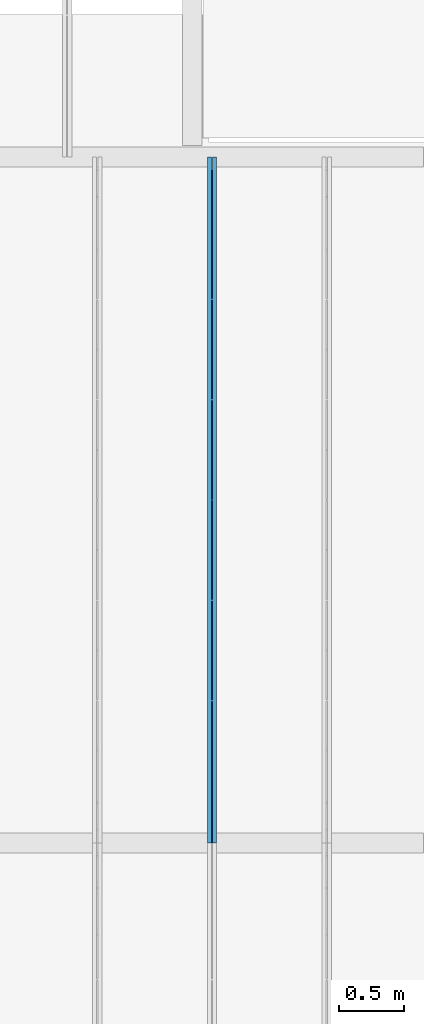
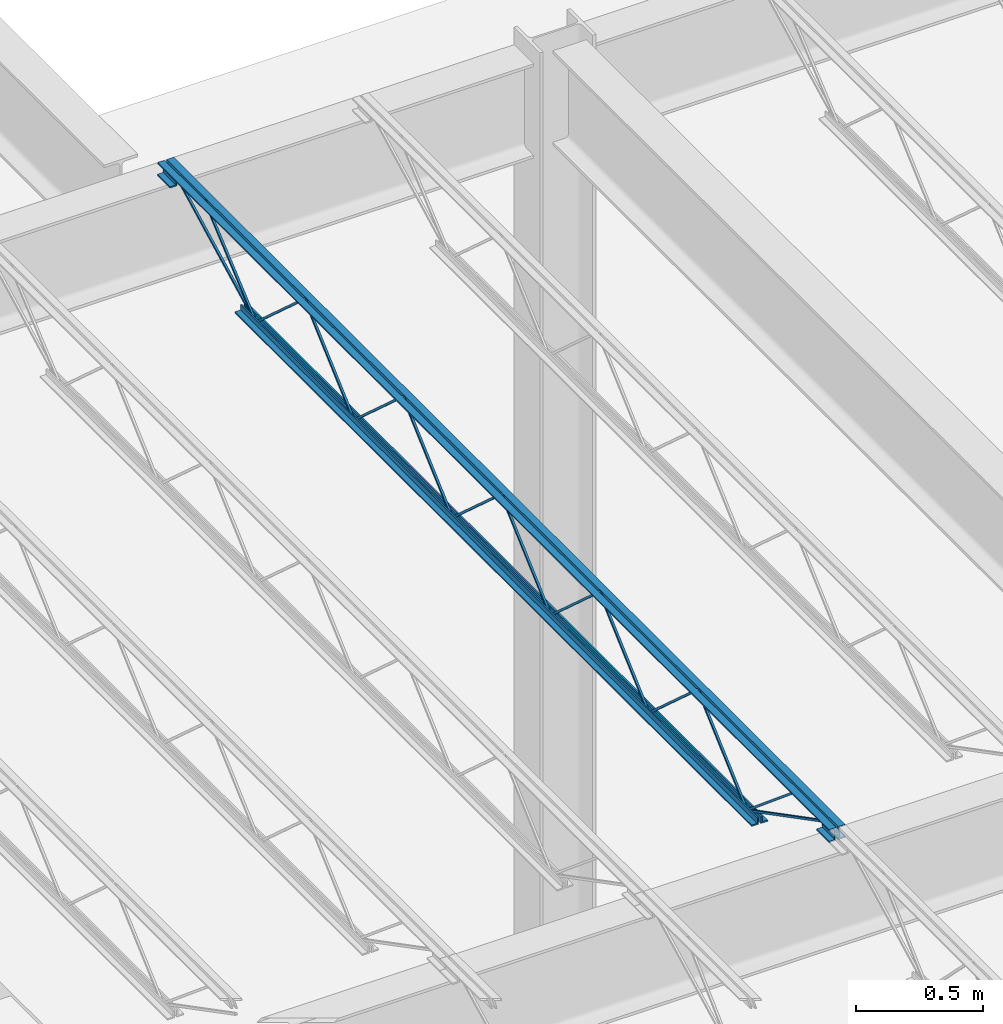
# One storey, part 86 of 119: 1 beam.
"""IFC2X3 building model written with IfcOpenShell, lengths in metres."""

import ifcopenshell
import ifcopenshell.guid

model = None  # the IFC model being written
_history = None  # IfcOwnerHistory: only IFC2X3 demands one
_inside = {}  # id of a spatial element -> (the spatial element, [elements in it])
_under = {}  # id of a project, library or spatial element -> (it, [spatial elements below it])
_declared = {}  # id of a project -> (the project, [libraries it declares])
_typed = {}  # id of a type object -> (the type object, [elements of that type])
_made_of = {}  # id of a material, layer set ... -> (it, [elements and type objects made of it])


def new_model(schema):
    """Start an empty IFC model of exactly this schema.

    Asked for "IFC4X3", IfcOpenShell would pick the latest addendum, in which some entities
    have other attributes; the version numbers below select the first issue.
    IFC2X3 requires an IfcOwnerHistory on every rooted entity: one is made here for all.
    """
    global model, _history
    if schema == "IFC4X3":
        model = ifcopenshell.file(schema_version=(4, 3, 0, 0))
    else:
        model = ifcopenshell.file(schema=schema)
    _inside.clear()
    _under.clear()
    _declared.clear()
    _typed.clear()
    _made_of.clear()
    _history = None
    if model.schema == "IFC2X3":
        org = make("IfcOrganization", Name="unknown")
        user = make(
            "IfcPersonAndOrganization",
            ThePerson=make("IfcPerson", FamilyName="unknown"),
            TheOrganization=org,
        )
        app = make(
            "IfcApplication",
            ApplicationDeveloper=org,
            Version="unknown",
            ApplicationFullName="unknown",
            ApplicationIdentifier="unknown",
        )
        _history = make(
            "IfcOwnerHistory",
            OwningUser=user,
            OwningApplication=app,
            ChangeAction="ADDED",
            CreationDate=0,
        )
    return model


def make(cls, **values):
    """One entity of the class cls with the attributes given. An attribute that is None is left unset."""
    return model.create_entity(
        cls, **{name: value for name, value in values.items() if value is not None}
    )


def entity(cls, *values):
    """Any entity or typed value of the class cls, its attributes in the order of the schema. None: left unset."""
    e = model.create_entity(cls)
    for i, value in enumerate(values):
        if value is not None:
            e[i] = value
    return e


def rooted(cls, **values):
    """An entity with a GlobalId (a new one), such as an element, a storey or a relation."""
    return make(cls, GlobalId=ifcopenshell.guid.new(), OwnerHistory=_history, **values)


def si_unit(unit_type, name, prefix=None):
    """IfcSIUnit, for example si_unit("LENGTHUNIT", "METRE", prefix="MILLI")."""
    return make("IfcSIUnit", UnitType=unit_type, Prefix=prefix, Name=name)


def converted_unit(unit_type, name, factor, base, dimensions=None, offset=None):
    """IfcConversionBasedUnit, such as the inch: factor (a typed value) times the base unit."""
    return make(
        "IfcConversionBasedUnit"
        if offset is None
        else "IfcConversionBasedUnitWithOffset",
        ConversionOffset=offset,
        Dimensions=None
        if dimensions is None
        else entity("IfcDimensionalExponents", *dimensions),
        UnitType=unit_type,
        Name=name,
        ConversionFactor=make(
            "IfcMeasureWithUnit", ValueComponent=factor, UnitComponent=base
        ),
    )


def assignment(units):
    """IfcUnitAssignment: the units of a project."""
    return None if units is None else make("IfcUnitAssignment", Units=units)


def point(xyz):
    """IfcCartesianPoint."""
    return None if xyz is None else make("IfcCartesianPoint", Coordinates=xyz)


def direction(xyz):
    """IfcDirection."""
    return None if xyz is None else make("IfcDirection", DirectionRatios=xyz)


def frame(location, z_axis=None, x_axis=None):
    """IfcAxis2Placement3D, a coordinate frame: its origin and axes. An axis left out is left unset."""
    return make(
        "IfcAxis2Placement3D",
        Location=point(location),
        Axis=direction(z_axis),
        RefDirection=direction(x_axis),
    )


def origin():
    """The frame at (0, 0, 0) with its axes left unset."""
    return frame((0.0, 0.0, 0.0))


def place(relative_to, where):
    """IfcLocalPlacement: puts the frame where relative to a parent placement (None: the world)."""
    return make(
        "IfcLocalPlacement", PlacementRelTo=relative_to, RelativePlacement=where
    )


def context(
    kind, dimensions, precision=None, world=None, true_north=None, identifier=None
):
    """IfcGeometricRepresentationContext, for example the 3D "Model" context."""
    return make(
        "IfcGeometricRepresentationContext",
        ContextIdentifier=identifier,
        ContextType=kind,
        CoordinateSpaceDimension=dimensions,
        Precision=precision,
        WorldCoordinateSystem=world,
        TrueNorth=true_north,
    )


def project(units=None, contexts=None):
    """IfcProject with its units and contexts."""
    return rooted(
        "IfcProject",
        Name="project",
        RepresentationContexts=contexts,
        UnitsInContext=assignment(units),
    )


def spatial(cls, under=None, at=None, **own):
    """A site, building, storey or space (cls), placed at a placement, below another one or the project."""
    s = rooted(cls, ObjectPlacement=at, **own)
    if under is not None:
        _under.setdefault(under.id(), (under, []))[1].append(s)
    return s


def faces_of(points, faces, orient=None, outer=None):
    """IfcFace entities. A face is a list of loops; a loop is a list of indices into points, from 0.

    orient and outer hold one flag for each loop. By default every Orientation is true, the
    first loop of a face is its IfcFaceOuterBound and the others are IfcFaceBound.
    """
    made = []
    for i, loops in enumerate(faces):
        bounds = []
        for j, loop in enumerate(loops):
            is_outer = j == 0 if outer is None else outer[i][j]
            bounds.append(
                make(
                    "IfcFaceOuterBound" if is_outer else "IfcFaceBound",
                    Bound=make("IfcPolyLoop", Polygon=[points[k] for k in loop]),
                    Orientation=True if orient is None else orient[i][j],
                )
            )
        made.append(make("IfcFace", Bounds=bounds))
    return made


def face_set(faces, orient=None, outer=None):
    """The faces of one IfcConnectedFaceSet. surface_model builds it on its shared points."""
    return ("IfcConnectedFaceSet", faces, orient, outer)


def surface_model(cls, points, shells):
    """IfcFaceBasedSurfaceModel or IfcShellBasedSurfaceModel (cls): surfaces that need not close."""
    shared = [point(p) for p in points]
    made = [make(c, CfsFaces=faces_of(shared, fs, o, b)) for c, fs, o, b in shells]
    if cls == "IfcFaceBasedSurfaceModel":
        return make(cls, FbsmFaces=made)
    return make(cls, SbsmBoundary=made)


def shape(context_of_items, identifier, shape_type, items):
    """IfcShapeRepresentation: the items that make up one representation, for example the "Body"."""
    return make(
        "IfcShapeRepresentation",
        ContextOfItems=context_of_items,
        RepresentationIdentifier=identifier,
        RepresentationType=shape_type,
        Items=items,
    )


def made_of(thing, what):
    """Note that an element or type object is made of a material, layer set ...; save() writes the relation."""
    if what is not None:
        _made_of.setdefault(what.id(), (what, []))[1].append(thing)
    return thing


def element(
    cls,
    number,
    at=None,
    inside=None,
    cuts=None,
    type_object=None,
    material=None,
    context=None,
    identifier="Body",
    shape_type=None,
    held_by="IfcProductDefinitionShape",
    body=None,
    shapes=None,
    **own,
):
    """One element of the class cls, such as IfcWall. Its Tag is "e" and its number.

    at: its placement. inside: the storey or other place that contains it. cuts: it is an
    opening in that element (IfcRelVoidsElement). A single representation is given by context,
    identifier, shape_type and body (its items); several are given by shapes. held_by: the class
    of the entity that holds the representations. save() writes the other relations.
    """
    e = rooted(cls, Tag="e%d" % number, ObjectPlacement=at, **own)
    if body is not None:
        shapes = [shape(context, identifier, shape_type, body)]
    if shapes is not None:
        e.Representation = make(held_by, Representations=shapes)
    if inside is not None:
        _inside.setdefault(inside.id(), (inside, []))[1].append(e)
    if cuts is not None:
        rooted(
            "IfcRelVoidsElement", RelatingBuildingElement=cuts, RelatedOpeningElement=e
        )
    if type_object is not None:
        _typed.setdefault(type_object.id(), (type_object, []))[1].append(e)
    return made_of(e, material)


def aggregate(whole, parts):
    """IfcRelAggregates: a whole, such as a stair, and the parts it consists of."""
    return rooted("IfcRelAggregates", RelatingObject=whole, RelatedObjects=parts)


def save(model, path):
    """Write the relations noted so far, then the file.

    IfcRelAggregates (storeys below a building ...), IfcRelContainedInSpatialStructure (elements
    in a storey), IfcRelDefinesByType, IfcRelAssociatesMaterial and IfcRelDeclares: one each for
    every whole, place, type object, material and project.
    """
    for whole, parts in _under.values():
        aggregate(whole, parts)
    for where, things in _inside.values():
        rooted(
            "IfcRelContainedInSpatialStructure",
            RelatedElements=things,
            RelatingStructure=where,
        )
    for kind, things in _typed.values():
        rooted("IfcRelDefinesByType", RelatedObjects=things, RelatingType=kind)
    for what, things in _made_of.values():
        rooted("IfcRelAssociatesMaterial", RelatedObjects=things, RelatingMaterial=what)
    for by, libraries in _declared.values():
        rooted("IfcRelDeclares", RelatingContext=by, RelatedDefinitions=libraries)
    model.write(path)


model = new_model("IFC2X3")

# Units and contexts
model_context = context("Model", 3, precision=1e-09, world=origin())
plan_context = context("Plan", 3, precision=1e-09, world=origin())
ifc_project = project(units=[si_unit("LENGTHUNIT", "METRE"), si_unit("AREAUNIT", "SQUARE_METRE"), si_unit("VOLUMEUNIT", "CUBIC_METRE"), converted_unit("PLANEANGLEUNIT", "DEGREE", entity("IfcRatioMeasure", 0.01745329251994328), si_unit("PLANEANGLEUNIT", "RADIAN"), dimensions=[0, 0, 0, 0, 0, 0, 0]), si_unit("TIMEUNIT", "SECOND")], contexts=[model_context, plan_context])

# Site, building, storey
site_placement = place(None, origin())
site = spatial("IfcSite", under=ifc_project, at=site_placement, Name="Default", CompositionType="ELEMENT")
building_placement = place(site_placement, origin())
building = spatial("IfcBuilding", under=site, at=building_placement, CompositionType="ELEMENT")
storey_placement = place(building_placement, frame((0.0, 0.0, 4.570000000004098)))
storey = spatial("IfcBuildingStorey", under=building, at=storey_placement, Name="Second Floor", CompositionType="ELEMENT", Elevation=4.570000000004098)

# Beam
beam_placement = place(storey_placement, frame((-35.36425000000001, 44.78050000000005, 4.323999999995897)))
element("IfcBeam", 1, at=beam_placement, inside=storey, Name="M_K-Series Bar Joist-Rod Web:14K1:14K1", ObjectType="M_K-Series Bar Joist-Rod Web:14K1", context=model_context, shape_type="SurfaceModel", body=[
    surface_model("IfcFaceBasedSurfaceModel", [(0.04150000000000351, 3.042999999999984, 0.01110000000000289), (0.03200000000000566, 3.042999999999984, 0.01110000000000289), (0.03200000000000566, 3.042999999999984, 0.001600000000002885), (0.04150000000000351, 3.042999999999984, 0.001600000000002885), (0.03200000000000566, 3.044354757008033, 0.01110000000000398), (0.0415000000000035, 3.044354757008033, 0.01110000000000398), (0.03200000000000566, 3.047995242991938, 0.001600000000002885), (0.03200000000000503, 3.430145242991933, 0.3449000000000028), (0.03200000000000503, 3.432854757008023, 0.3449000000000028), (0.03200000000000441, 3.815004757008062, 0.001600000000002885), (0.0320000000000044, 3.819999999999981, 0.001600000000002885), (0.0320000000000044, 3.819999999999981, 0.01110000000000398), (0.0320000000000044, 3.818645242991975, 0.01110000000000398), (0.03200000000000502, 3.436495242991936, 0.3544000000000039), (0.03200000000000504, 3.426504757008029, 0.3544000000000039), (0.04150000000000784, 3.047995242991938, 0.001600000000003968), (0.04150000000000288, 3.430145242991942, 0.3449000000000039), (0.04150000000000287, 3.432854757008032, 0.3449000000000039), (0.04150000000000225, 3.815004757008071, 0.001600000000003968), (0.04150000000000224, 3.819999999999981, 0.001600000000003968), (0.04150000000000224, 3.819999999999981, 0.01110000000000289), (0.04150000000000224, 3.818645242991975, 0.01110000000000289), (0.04150000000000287, 3.436495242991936, 0.3544000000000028), (0.04150000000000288, 3.426504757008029, 0.3544000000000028), (0.04150000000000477, 2.265999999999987, 0.01110000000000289), (0.03200000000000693, 2.265999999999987, 0.01110000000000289), (0.03200000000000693, 2.265999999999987, 0.001600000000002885), (0.04150000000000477, 2.265999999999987, 0.001600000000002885), (0.03200000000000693, 2.267354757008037, 0.01110000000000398), (0.04150000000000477, 2.267354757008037, 0.01110000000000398), (0.03200000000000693, 2.270995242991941, 0.001600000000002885), (0.0320000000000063, 2.653145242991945, 0.3449000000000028), (0.0320000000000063, 2.655854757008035, 0.3449000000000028), (0.03200000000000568, 3.038004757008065, 0.001600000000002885), (0.03200000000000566, 3.042999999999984, 0.01110000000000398), (0.03200000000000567, 3.041645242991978, 0.01110000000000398), (0.03200000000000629, 2.659495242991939, 0.3544000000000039), (0.03200000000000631, 2.649504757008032, 0.3544000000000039), (0.0415000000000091, 2.270995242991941, 0.001600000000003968), (0.04150000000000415, 2.653145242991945, 0.3449000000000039), (0.04150000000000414, 2.655854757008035, 0.3449000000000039), (0.04150000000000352, 3.038004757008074, 0.001600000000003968), (0.04150000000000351, 3.042999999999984, 0.001600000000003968), (0.04150000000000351, 3.041645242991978, 0.01110000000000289), (0.04150000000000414, 2.659495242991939, 0.3544000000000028), (0.04150000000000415, 2.649504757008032, 0.3544000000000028), (0.04150000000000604, 1.488999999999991, 0.01110000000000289), (0.0320000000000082, 1.488999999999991, 0.01110000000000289), (0.0320000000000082, 1.488999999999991, 0.001600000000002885), (0.04150000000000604, 1.488999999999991, 0.001600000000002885), (0.0320000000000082, 1.49035475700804, 0.01110000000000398), (0.04150000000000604, 1.49035475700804, 0.01110000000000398), (0.0320000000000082, 1.493995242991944, 0.001600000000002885), (0.03200000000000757, 1.876145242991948, 0.3449000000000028), (0.03200000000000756, 1.878854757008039, 0.3449000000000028), (0.03200000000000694, 2.261004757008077, 0.001600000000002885), (0.03200000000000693, 2.265999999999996, 0.001600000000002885), (0.03200000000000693, 2.265999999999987, 0.01110000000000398), (0.03200000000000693, 2.264645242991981, 0.01110000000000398), (0.03200000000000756, 1.882495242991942, 0.3544000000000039), (0.03200000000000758, 1.872504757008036, 0.3544000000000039), (0.04150000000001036, 1.493995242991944, 0.001600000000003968), (0.04150000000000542, 1.876145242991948, 0.3449000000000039), (0.04150000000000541, 1.878854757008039, 0.3449000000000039), (0.04150000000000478, 2.261004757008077, 0.001600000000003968), (0.04150000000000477, 2.265999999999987, 0.001600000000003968), (0.04150000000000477, 2.265999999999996, 0.01110000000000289), (0.04150000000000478, 2.264645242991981, 0.01110000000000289), (0.04150000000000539, 1.882495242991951, 0.3544000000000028), (0.04150000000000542, 1.872504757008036, 0.3544000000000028), (0.04149999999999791, 3.819999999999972, 0.01109999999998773), (0.03200000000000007, 3.819999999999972, 0.01109999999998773), (0.03200000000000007, 3.819999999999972, 0.001599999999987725), (0.04149999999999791, 3.819999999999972, 0.001599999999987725), (0.03200000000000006, 3.821354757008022, 0.01109999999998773), (0.04149999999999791, 3.821354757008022, 0.01109999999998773), (0.03200000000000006, 3.824995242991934, 0.001599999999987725), (0.03200000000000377, 4.207145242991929, 0.3448999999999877), (0.03200000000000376, 4.20985475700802, 0.3448999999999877), (0.03200000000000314, 4.592004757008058, 0.001599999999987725), (0.03200000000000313, 4.596999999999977, 0.001599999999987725), (0.0319999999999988, 4.596999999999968, 0.01109999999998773), (0.0319999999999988, 4.595645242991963, 0.01109999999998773), (0.03199999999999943, 4.213495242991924, 0.3543999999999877), (0.03199999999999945, 4.203504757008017, 0.3543999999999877), (0.04150000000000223, 3.824995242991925, 0.001599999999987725), (0.04149999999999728, 4.207145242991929, 0.3448999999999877), (0.04149999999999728, 4.20985475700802, 0.3448999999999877), (0.04149999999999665, 4.592004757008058, 0.001599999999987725), (0.04149999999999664, 4.596999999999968, 0.001599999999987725), (0.04150000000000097, 4.596999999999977, 0.01109999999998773), (0.04150000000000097, 4.595645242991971, 0.01109999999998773), (0.0415000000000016, 4.213495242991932, 0.3543999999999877), (0.04150000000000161, 4.203504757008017, 0.3543999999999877), (0.04150000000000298, 0.7119999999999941, 0.01110000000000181), (0.03200000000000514, 0.7119999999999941, 0.01110000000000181), (0.03200000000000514, 0.7119999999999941, 0.001600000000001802), (0.04150000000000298, 0.7119999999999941, 0.001600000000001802), (0.03200000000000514, 0.7133547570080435, 0.01110000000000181), (0.04150000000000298, 0.7133547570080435, 0.01110000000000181), (0.03200000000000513, 0.7169952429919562, 0.001600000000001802), (0.0320000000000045, 1.099145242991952, 0.3449000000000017), (0.0320000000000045, 1.101854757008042, 0.3449000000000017), (0.03200000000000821, 1.484004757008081, 0.001600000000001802), (0.0320000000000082, 1.488999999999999, 0.001600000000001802), (0.03200000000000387, 1.488999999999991, 0.01110000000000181), (0.03200000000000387, 1.487645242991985, 0.01110000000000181), (0.0320000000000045, 1.105495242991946, 0.3544000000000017), (0.03200000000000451, 1.095504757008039, 0.3544000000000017), (0.0415000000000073, 0.7169952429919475, 0.001600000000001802), (0.04150000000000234, 1.099145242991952, 0.3449000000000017), (0.04150000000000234, 1.101854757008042, 0.3449000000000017), (0.04150000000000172, 1.484004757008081, 0.001600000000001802), (0.04150000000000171, 1.488999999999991, 0.001600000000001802), (0.04150000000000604, 1.488999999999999, 0.01110000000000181), (0.04150000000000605, 1.487645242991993, 0.01110000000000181), (0.04150000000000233, 1.105495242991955, 0.3544000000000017), (0.04150000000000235, 1.095504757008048, 0.3544000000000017), (0.0320000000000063, 5.308999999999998, 0.3559999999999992), (0.0, 5.308999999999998, 0.3559999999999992), (0.0, 5.308999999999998, 0.3494999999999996), (0.02550000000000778, 5.308999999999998, 0.3494999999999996), (0.02550000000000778, 5.308999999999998, 0.3239999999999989), (0.0320000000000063, 5.308999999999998, 0.3239999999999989), (0.04150000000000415, 5.308999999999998, 0.3559999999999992), (0.04150000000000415, 5.308999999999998, 0.3239999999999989), (0.048000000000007, 5.308999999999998, 0.3239999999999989), (0.048000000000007, 5.308999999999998, 0.3494999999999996), (0.07350000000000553, 5.308999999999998, 0.3494999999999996), (0.07350000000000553, 5.308999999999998, 0.3559999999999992), (0.0320000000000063, 0.0, 0.3559999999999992), (0.0, 0.0, 0.3559999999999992), (0.0, 0.0, 0.3494999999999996), (0.02550000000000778, 0.0, 0.3494999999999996), (0.02550000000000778, 0.0, 0.3239999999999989), (0.0320000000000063, 0.0, 0.3239999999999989), (0.04150000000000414, 0.0, 0.3559999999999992), (0.04150000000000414, 0.0, 0.3239999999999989), (0.04800000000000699, 0.0, 0.3239999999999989), (0.04800000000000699, 0.0, 0.3494999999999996), (0.07350000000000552, 0.0, 0.3494999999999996), (0.07350000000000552, 0.0, 0.3559999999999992), (0.04150000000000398, 0.09999999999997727, 0.2924999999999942), (0.07350000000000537, 0.09999999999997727, 0.2924999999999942), (0.07350000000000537, 0.09999999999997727, 0.2989999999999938), (0.0480000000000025, 0.09999999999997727, 0.2989999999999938), (0.0480000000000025, 0.09999999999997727, 0.3239999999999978), (0.04150000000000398, 0.09999999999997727, 0.3239999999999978), (0.0, 0.09999999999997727, 0.2924999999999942), (0.03200000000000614, 0.09999999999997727, 0.2924999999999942), (0.03200000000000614, 0.09999999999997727, 0.3239999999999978), (0.02550000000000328, 0.09999999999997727, 0.3239999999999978), (0.02550000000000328, 0.09999999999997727, 0.2989999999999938), (0.0, 0.09999999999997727, 0.2989999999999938), (0.04150000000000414, 0.0, 0.2924999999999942), (0.07350000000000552, 0.0, 0.2924999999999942), (0.07350000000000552, 0.0, 0.2989999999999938), (0.04800000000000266, 0.0, 0.2989999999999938), (0.04800000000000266, 0.0, 0.3239999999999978), (0.04150000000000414, 0.0, 0.3239999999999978), (0.0, 0.0, 0.2924999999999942), (0.0320000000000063, 0.0, 0.2924999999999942), (0.0320000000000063, 0.0, 0.3239999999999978), (0.02550000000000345, 0.0, 0.3239999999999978), (0.02550000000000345, 0.0, 0.2989999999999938), (0.0, 0.0, 0.2989999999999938), (0.0320000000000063, 5.308999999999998, 0.2924999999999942), (0.0320000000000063, 5.308999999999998, 0.3239999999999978), (0.02550000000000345, 5.308999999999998, 0.3239999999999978), (0.02550000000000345, 5.308999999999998, 0.2989999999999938), (0.0, 5.308999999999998, 0.2989999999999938), (0.0, 5.308999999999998, 0.2924999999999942), (0.04150000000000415, 5.308999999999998, 0.2924999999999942), (0.07350000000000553, 5.308999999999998, 0.2924999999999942), (0.07350000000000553, 5.308999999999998, 0.2989999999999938), (0.04800000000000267, 5.308999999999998, 0.2989999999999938), (0.04800000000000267, 5.308999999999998, 0.3239999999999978), (0.04150000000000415, 5.308999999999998, 0.3239999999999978), (0.03200000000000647, 5.208999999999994, 0.2924999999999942), (0.03200000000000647, 5.208999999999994, 0.3239999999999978), (0.02550000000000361, 5.208999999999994, 0.3239999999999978), (0.02550000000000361, 5.208999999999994, 0.2989999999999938), (0.0, 5.208999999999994, 0.2989999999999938), (0.0, 5.208999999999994, 0.2924999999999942), (0.0415000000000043, 5.208999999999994, 0.2924999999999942), (0.0735000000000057, 5.208999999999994, 0.2924999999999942), (0.0735000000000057, 5.208999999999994, 0.2989999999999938), (0.04800000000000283, 5.208999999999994, 0.2989999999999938), (0.04800000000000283, 5.208999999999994, 0.3239999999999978), (0.0415000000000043, 5.208999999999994, 0.3239999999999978), (0.0320000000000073, 4.697000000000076, 0.0), (0.0320000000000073, 4.697000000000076, 0.03199999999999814), (0.02550000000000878, 4.697000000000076, 0.03199999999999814), (0.02550000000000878, 4.697000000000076, 0.006499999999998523), (0.0, 4.697000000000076, 0.006499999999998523), (0.0, 4.697000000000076, 0.0), (0.04150000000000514, 4.697000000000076, 0.0), (0.07350000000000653, 4.697000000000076, 0.0), (0.07350000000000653, 4.697000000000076, 0.006499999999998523), (0.048000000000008, 4.697000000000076, 0.006499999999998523), (0.048000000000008, 4.697000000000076, 0.03199999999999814), (0.04150000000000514, 4.697000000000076, 0.03199999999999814), (0.0320000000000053, 0.6120000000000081, 0.0), (0.0320000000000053, 0.6120000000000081, 0.03199999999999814), (0.02550000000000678, 0.6120000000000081, 0.03199999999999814), (0.02550000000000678, 0.6120000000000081, 0.006499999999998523), (0.0, 0.6120000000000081, 0.006499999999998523), (0.0, 0.6120000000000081, 0.0), (0.04150000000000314, 0.6120000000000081, 0.0), (0.07350000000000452, 0.6120000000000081, 0.0), (0.07350000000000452, 0.6120000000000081, 0.006499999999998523), (0.04800000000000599, 0.6120000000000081, 0.006499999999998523), (0.04800000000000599, 0.6120000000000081, 0.03199999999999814), (0.04150000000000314, 0.6120000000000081, 0.03199999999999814), (0.04150000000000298, 0.7141882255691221, 0.01056594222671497), (0.03200000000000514, 0.7141882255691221, 0.01056594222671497), (0.03200000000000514, 0.7098117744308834, 0.00213405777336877), (0.04150000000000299, 0.7098117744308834, 0.00213405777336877), (0.04150000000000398, 0.101159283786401, 0.3287499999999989), (0.04150000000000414, 0.0, 0.3287499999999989), (0.04150000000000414, 0.0, 0.3192499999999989), (0.04150000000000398, 0.09884071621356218, 0.3192499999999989), (0.03200000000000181, 0.09884071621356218, 0.3192499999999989), (0.03200000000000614, 0.101159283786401, 0.3287499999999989), (0.0320000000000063, 0.0, 0.3287499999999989), (0.0320000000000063, 0.0, 0.3192499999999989), (0.04150000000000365, 0.3035428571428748, 0.3417000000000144), (0.0320000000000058, 0.3035428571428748, 0.3417000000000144), (0.0320000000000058, 0.3035428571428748, 0.3322000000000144), (0.04150000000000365, 0.3035428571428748, 0.3322000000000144), (0.03200000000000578, 0.3179658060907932, 0.3417000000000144), (0.04150000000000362, 0.3179658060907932, 0.3417000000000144), (0.03200000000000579, 0.3145199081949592, 0.3322000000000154), (0.03200000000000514, 0.7089547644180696, 0.002704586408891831), (0.03200000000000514, 0.7150452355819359, 0.009995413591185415), (0.04150000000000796, 0.3145199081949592, 0.3322000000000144), (0.04150000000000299, 0.7089547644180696, 0.002704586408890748), (0.04150000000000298, 0.7150452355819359, 0.009995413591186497), (0.0415000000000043, 5.211188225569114, 0.3197840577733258), (0.0415000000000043, 5.206811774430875, 0.328215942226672), (0.03200000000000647, 5.206811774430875, 0.328215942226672), (0.03200000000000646, 5.211188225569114, 0.3197840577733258), (0.0415000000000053, 4.599188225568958, 0.002134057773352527), (0.0415000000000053, 4.59481177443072, 0.01056594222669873), (0.03200000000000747, 4.59481177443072, 0.01056594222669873), (0.03200000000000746, 4.599188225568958, 0.002134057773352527), (0.04150000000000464, 5.003094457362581, 0.3460340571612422), (0.04150000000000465, 4.996934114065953, 0.35326594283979), (0.03200000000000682, 4.996934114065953, 0.3532659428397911), (0.0320000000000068, 5.003094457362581, 0.3460340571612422), (0.0415000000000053, 4.600080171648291, 0.002734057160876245), (0.04150000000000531, 4.593919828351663, 0.00996594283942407), (0.03200000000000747, 4.593919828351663, 0.00996594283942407), (0.03200000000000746, 4.600080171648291, 0.002734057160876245)], [face_set([[[0, 1, 2, 3]], [[1, 4, 5, 0]], [[2, 6, 7, 8, 9, 10, 11, 12, 13, 14, 4, 1]], [[3, 2, 6, 15]], [[0, 3, 15, 16, 17, 18, 19, 20, 21, 22, 23, 5]], [[4, 5, 23, 14]], [[15, 16, 7, 6]], [[14, 13, 22, 23]], [[16, 7, 8, 17]], [[13, 12, 21, 22]], [[17, 8, 9, 18]], [[20, 11, 10, 19]], [[12, 11, 20, 21]], [[18, 9, 10, 19]]]), face_set([[[24, 25, 26, 27]], [[25, 28, 29, 24]], [[26, 30, 31, 32, 33, 2, 34, 35, 36, 37, 28, 25]], [[27, 26, 30, 38]], [[24, 27, 38, 39, 40, 41, 42, 0, 43, 44, 45, 29]], [[28, 29, 45, 37]], [[38, 39, 31, 30]], [[37, 36, 44, 45]], [[39, 31, 32, 40]], [[36, 35, 43, 44]], [[40, 32, 33, 41]], [[0, 34, 2, 42]], [[35, 34, 0, 43]], [[41, 33, 2, 42]]]), face_set([[[46, 47, 48, 49]], [[47, 50, 51, 46]], [[48, 52, 53, 54, 55, 56, 57, 58, 59, 60, 50, 47]], [[49, 48, 52, 61]], [[46, 49, 61, 62, 63, 64, 65, 66, 67, 68, 69, 51]], [[50, 51, 69, 60]], [[61, 62, 53, 52]], [[60, 59, 68, 69]], [[62, 53, 54, 63]], [[59, 58, 67, 68]], [[63, 54, 55, 64]], [[66, 57, 56, 65]], [[58, 57, 66, 67]], [[64, 55, 56, 65]]]), face_set([[[70, 71, 72, 73]], [[71, 74, 75, 70]], [[72, 76, 77, 78, 79, 80, 81, 82, 83, 84, 74, 71]], [[73, 72, 76, 85]], [[70, 73, 85, 86, 87, 88, 89, 90, 91, 92, 93, 75]], [[74, 75, 93, 84]], [[85, 86, 77, 76]], [[84, 83, 92, 93]], [[86, 77, 78, 87]], [[83, 82, 91, 92]], [[87, 78, 79, 88]], [[90, 81, 80, 89]], [[82, 81, 90, 91]], [[88, 79, 80, 89]]]), face_set([[[94, 95, 96, 97]], [[95, 98, 99, 94]], [[96, 100, 101, 102, 103, 104, 105, 106, 107, 108, 98, 95]], [[97, 96, 100, 109]], [[94, 97, 109, 110, 111, 112, 113, 114, 115, 116, 117, 99]], [[98, 99, 117, 108]], [[109, 110, 101, 100]], [[108, 107, 116, 117]], [[110, 101, 102, 111]], [[107, 106, 115, 116]], [[111, 102, 103, 112]], [[114, 105, 104, 113]], [[106, 105, 114, 115]], [[112, 103, 104, 113]]]), face_set([[[118, 119, 120, 121, 122, 123]], [[124, 125, 126, 127, 128, 129]], [[130, 131, 132, 133, 134, 135]], [[136, 137, 138, 139, 140, 141]], [[123, 118, 130, 135]], [[122, 123, 135, 134]], [[121, 133, 134, 122]], [[120, 121, 133, 132]], [[119, 131, 132, 120]], [[118, 130, 131, 119]], [[129, 141, 136, 124]], [[128, 129, 141, 140]], [[127, 128, 140, 139]], [[126, 127, 139, 138]], [[125, 126, 138, 137]], [[124, 136, 137, 125]]]), face_set([[[142, 143, 144, 145, 146, 147]], [[148, 149, 150, 151, 152, 153]], [[154, 155, 156, 157, 158, 159]], [[160, 161, 162, 163, 164, 165]], [[147, 159, 154, 142]], [[146, 158, 159, 147]], [[145, 146, 158, 157]], [[144, 156, 157, 145]], [[143, 144, 156, 155]], [[142, 143, 155, 154]], [[153, 165, 160, 148]], [[152, 164, 165, 153]], [[151, 163, 164, 152]], [[150, 162, 163, 151]], [[149, 150, 162, 161]], [[148, 149, 161, 160]]]), face_set([[[166, 167, 168, 169, 170, 171]], [[172, 173, 174, 175, 176, 177]], [[178, 179, 180, 181, 182, 183]], [[184, 185, 186, 187, 188, 189]], [[171, 166, 178, 183]], [[170, 182, 183, 171]], [[169, 181, 182, 170]], [[168, 180, 181, 169]], [[167, 179, 180, 168]], [[166, 167, 179, 178]], [[177, 189, 184, 172]], [[176, 188, 189, 177]], [[175, 176, 188, 187]], [[174, 186, 187, 175]], [[173, 174, 186, 185]], [[172, 173, 185, 184]]]), face_set([[[190, 191, 192, 193, 194, 195]], [[196, 197, 198, 199, 200, 201]], [[202, 203, 204, 205, 206, 207]], [[208, 209, 210, 211, 212, 213]], [[195, 190, 202, 207]], [[194, 206, 207, 195]], [[193, 205, 206, 194]], [[192, 204, 205, 193]], [[191, 203, 204, 192]], [[190, 191, 203, 202]], [[201, 213, 208, 196]], [[200, 212, 213, 201]], [[199, 200, 212, 211]], [[198, 210, 211, 199]], [[197, 198, 210, 209]], [[196, 197, 209, 208]]]), face_set([[[214, 215, 216, 217]], [[217, 214, 218, 219, 220, 221]], [[216, 217, 221, 222]], [[215, 223, 224, 225, 222, 216]], [[214, 218, 223, 215]], [[219, 224, 225, 220]], [[222, 221, 220, 225]], [[218, 219, 224, 223]]]), face_set([[[226, 227, 228, 229]], [[227, 230, 231, 226]], [[228, 232, 233, 234, 230, 227]], [[229, 228, 232, 235]], [[226, 229, 235, 236, 237, 231]], [[237, 234, 233, 236]], [[230, 234, 237, 231]], [[235, 232, 233, 236]]]), face_set([[[238, 239, 240, 241]], [[242, 243, 244, 245]], [[241, 245, 242, 238]], [[240, 244, 245, 241]], [[239, 240, 244, 243]], [[238, 239, 243, 242]]]), face_set([[[246, 247, 248, 249]], [[250, 251, 252, 253]], [[249, 253, 250, 246]], [[248, 252, 253, 249]], [[247, 248, 252, 251]], [[246, 247, 251, 250]]])]),
])

save(model, "model.ifc")
